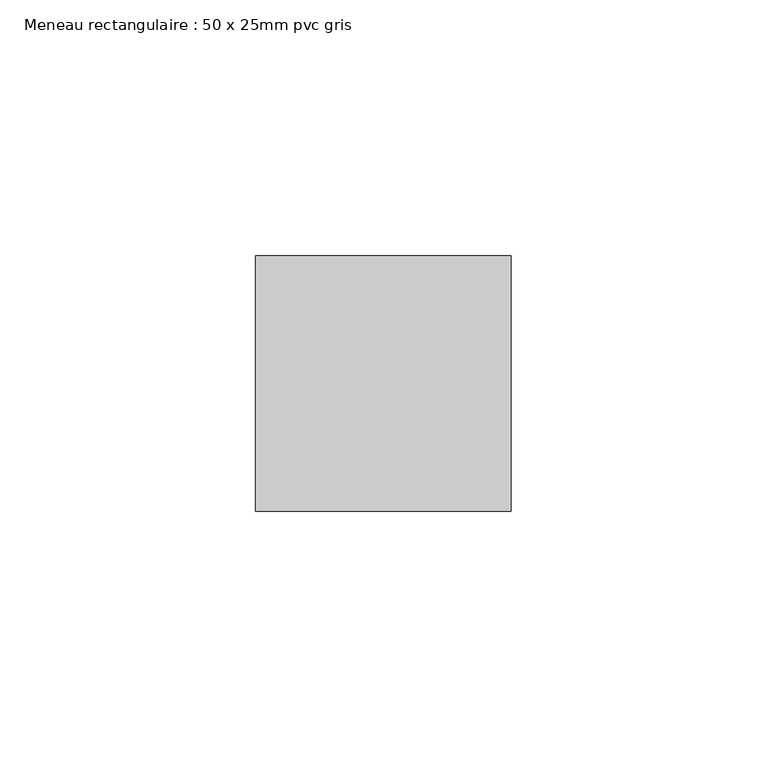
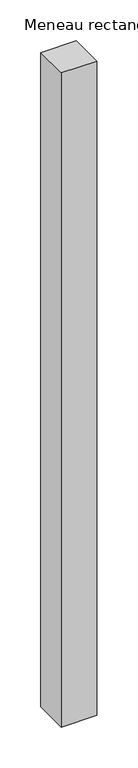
"""IFC4 building model written with IfcOpenShell, lengths in millimetres: member geometry, Meneau rectangulaire : 50 x 25mm pvc gris."""

from ifc_helpers import new_model, si_unit, frame, origin, place, context, project, spatial, polyline, outline, extrude, source, transform, mapped, element, save


def meneau_rectangulaire_50_x_25mm_pvc_gris_457475f9(model_context):
    return source(origin(), model_context, "Body", "SweptSolid", [
        extrude(outline(polyline([(0.0, 0.0), (0.0, -50.0), (-50.0, -50.0), (-50.0, 0.0), (0.0, 0.0)])), frame((0.0, 0.0, -975.645148), z_axis=(0.0, 0.0, 1.0), x_axis=(1.0, 0.0, 0.0)), (0.0, 0.0, 1.0), 975.645148),
    ])


if __name__ == "__main__":
    model = new_model("IFC4")
    model_context = context("Model", 3, world=origin())
    ifc_project = project(units=[si_unit("LENGTHUNIT", "METRE", prefix="MILLI")], contexts=[model_context])
    site = spatial("IfcSite", under=ifc_project)
    building = spatial("IfcBuilding", under=site)
    placement = place(None, origin())
    meneau_rectangulaire_50_x_25mm_pvc_gris_shape = meneau_rectangulaire_50_x_25mm_pvc_gris_457475f9(model_context)
    element("IfcMember", 1, ObjectType="Meneau rectangulaire : 50 x 25mm pvc gris", at=placement, inside=building, context=model_context, shape_type="MappedRepresentation", body=[
        mapped(meneau_rectangulaire_50_x_25mm_pvc_gris_shape, transform((0.0, 0.0, 0.0), x_axis=(1.0, 0.0, 0.0), y_axis=(0.0, 1.0, 0.0), z_axis=(0.0, 0.0, 1.0))),
    ])
    save(model, "model.ifc")
